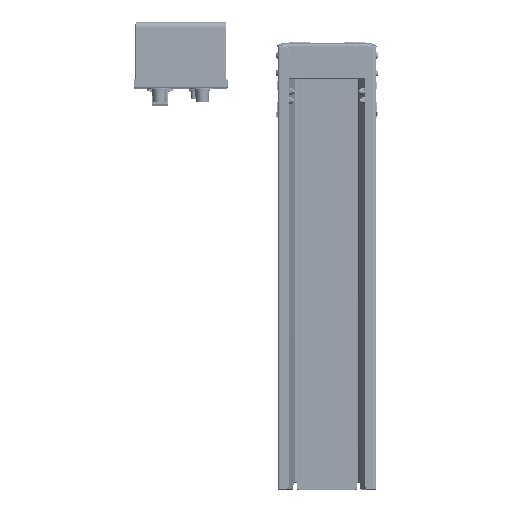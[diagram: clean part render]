
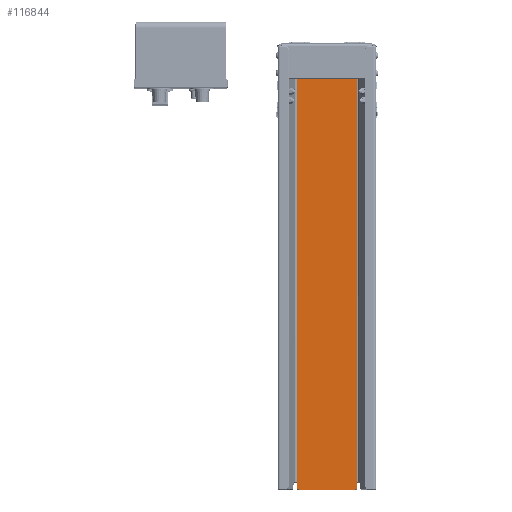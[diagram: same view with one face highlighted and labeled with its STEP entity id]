
A CAD part, top view. The second image highlights one B-rep face of the part: STEP entity #116844.
In plain terms, the highlighted planar face has unit normal (0, 0, 1).
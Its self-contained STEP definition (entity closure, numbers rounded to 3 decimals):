
#673 = ORIENTED_EDGE ( 'NONE', *, *, #25202, .T. ) ;
#1169 = VECTOR ( 'NONE', #91320, 1000. ) ;
#2685 = CARTESIAN_POINT ( 'NONE',  ( 42.445, 295.75, 0. ) ) ;
#3524 = CARTESIAN_POINT ( 'NONE',  ( 40.145, 298.05, 0. ) ) ;
#6179 = ORIENTED_EDGE ( 'NONE', *, *, #135567, .T. ) ;
#6259 = CARTESIAN_POINT ( 'NONE',  ( 43.145, 288.05, 0. ) ) ;
#7930 = CARTESIAN_POINT ( 'NONE',  ( -42.445, 288.75, 0. ) ) ;
#8040 = CARTESIAN_POINT ( 'NONE',  ( 43.145, 298.75, 0. ) ) ;
#8458 = CARTESIAN_POINT ( 'NONE',  ( -40.145, 295.75, 0. ) ) ;
#9961 = AXIS2_PLACEMENT_3D ( 'NONE', #62939, #51380, #62186 ) ;
#10751 = DIRECTION ( 'NONE',  ( 1., 0., 0. ) ) ;
#11056 = VECTOR ( 'NONE', #37459, 1000. ) ;
#12411 = CARTESIAN_POINT ( 'NONE',  ( 43.145, -298.041, 0. ) ) ;
#15068 = CARTESIAN_POINT ( 'NONE',  ( 0., 298.05, 0. ) ) ;
#18631 = EDGE_CURVE ( 'NONE', #58991, #142978, #45030, .T. ) ;
#20020 = VERTEX_POINT ( 'NONE', #3524 ) ;
#23687 = CARTESIAN_POINT ( 'NONE',  ( 0., -298.05, 0. ) ) ;
#25202 = EDGE_CURVE ( 'NONE', #90045, #123799, #34608, .T. ) ;
#25866 = LINE ( 'NONE', #15068, #49844 ) ;
#25888 = LINE ( 'NONE', #99130, #11056 ) ;
#26203 = CARTESIAN_POINT ( 'NONE',  ( -43.145, -299.304, 0. ) ) ;
#28842 = CARTESIAN_POINT ( 'NONE',  ( 40.145, 295.75, 0. ) ) ;
#32550 = EDGE_CURVE ( 'NONE', #112395, #123799, #108701, .T. ) ;
#34527 = LINE ( 'NONE', #23687, #141699 ) ;
#34608 = LINE ( 'NONE', #92457, #55952 ) ;
#36129 = CARTESIAN_POINT ( 'NONE',  ( -43.145, 288.05, 0. ) ) ;
#36877 = VERTEX_POINT ( 'NONE', #110789 ) ;
#37459 = DIRECTION ( 'NONE',  ( 0., 1., 0. ) ) ;
#39439 = DIRECTION ( 'NONE',  ( -1., 0., 0. ) ) ;
#41827 = CARTESIAN_POINT ( 'NONE',  ( 43.158, -298.044, 0. ) ) ;
#43684 = CARTESIAN_POINT ( 'NONE',  ( -42.445, 288.05, 0. ) ) ;
#45030 = LINE ( 'NONE', #8040, #1169 ) ;
#46446 = EDGE_CURVE ( 'NONE', #51347, #52669, #25888, .T. ) ;
#48378 = ORIENTED_EDGE ( 'NONE', *, *, #83167, .T. ) ;
#48946 = ORIENTED_EDGE ( 'NONE', *, *, #130557, .T. ) ;
#49811 = EDGE_CURVE ( 'NONE', #87848, #106148, #92512, .T. ) ;
#49844 = VECTOR ( 'NONE', #50504, 1000. ) ;
#50504 = DIRECTION ( 'NONE',  ( -1., 0., 0. ) ) ;
#51347 = VERTEX_POINT ( 'NONE', #85327 ) ;
#51380 = DIRECTION ( 'NONE',  ( 0., 0., 1. ) ) ;
#51771 = EDGE_CURVE ( 'NONE', #52669, #20020, #129747, .T. ) ;
#52669 = VERTEX_POINT ( 'NONE', #2685 ) ;
#52738 = ORIENTED_EDGE ( 'NONE', *, *, #49811, .T. ) ;
#54891 = CARTESIAN_POINT ( 'NONE',  ( 43.171, -298.047, 0. ) ) ;
#55224 = ORIENTED_EDGE ( 'NONE', *, *, #32550, .F. ) ;
#55952 = VECTOR ( 'NONE', #114848, 1000. ) ;
#56373 = B_SPLINE_CURVE_WITH_KNOTS ( 'NONE', 3,
 ( #57164, #54891, #41827, #91139 ),
 .UNSPECIFIED., .F., .F.,
 ( 4, 4 ),
 ( 0., 1. ),
 .UNSPECIFIED. ) ;
#57164 = CARTESIAN_POINT ( 'NONE',  ( 43.183, -298.05, 0. ) ) ;
#58991 = VERTEX_POINT ( 'NONE', #6259 ) ;
#59885 = DIRECTION ( 'NONE',  ( 1., 0., 0. ) ) ;
#61015 = LINE ( 'NONE', #108846, #82402 ) ;
#62186 = DIRECTION ( 'NONE',  ( 1., 0., 0. ) ) ;
#62904 = EDGE_CURVE ( 'NONE', #112395, #36877, #65351, .T. ) ;
#62939 = CARTESIAN_POINT ( 'NONE',  ( 0., 0., 0. ) ) ;
#65351 = B_SPLINE_CURVE_WITH_KNOTS ( 'NONE', 3,
 ( #117794, #90297, #88786, #137342 ),
 .UNSPECIFIED., .F., .F.,
 ( 4, 4 ),
 ( 0., 1. ),
 .UNSPECIFIED. ) ;
#72792 = AXIS2_PLACEMENT_3D ( 'NONE', #8458, #82436, #10751 ) ;
#73126 = AXIS2_PLACEMENT_3D ( 'NONE', #28842, #135258, #144554 ) ;
#73851 = ORIENTED_EDGE ( 'NONE', *, *, #62904, .T. ) ;
#75286 = PLANE ( 'NONE',  #9961 ) ;
#77143 = ORIENTED_EDGE ( 'NONE', *, *, #142211, .T. ) ;
#82402 = VECTOR ( 'NONE', #39439, 1000. ) ;
#82436 = DIRECTION ( 'NONE',  ( 0., 0., 1. ) ) ;
#82468 = LINE ( 'NONE', #7930, #82528 ) ;
#82528 = VECTOR ( 'NONE', #90461, 1000. ) ;
#82817 = CARTESIAN_POINT ( 'NONE',  ( -40.145, 298.05, 0. ) ) ;
#83167 = EDGE_CURVE ( 'NONE', #58991, #51347, #61015, .T. ) ;
#85327 = CARTESIAN_POINT ( 'NONE',  ( 42.445, 288.05, 0. ) ) ;
#87848 = VERTEX_POINT ( 'NONE', #82817 ) ;
#87875 = EDGE_LOOP ( 'NONE', ( #77143, #673, #55224, #73851, #48946, #136931, #89504, #48378, #116127, #145723, #6179, #52738 ) ) ;
#88667 = CARTESIAN_POINT ( 'NONE',  ( -43.145, -298.041, 0. ) ) ;
#88786 = CARTESIAN_POINT ( 'NONE',  ( -43.171, -298.047, 0. ) ) ;
#89504 = ORIENTED_EDGE ( 'NONE', *, *, #18631, .F. ) ;
#90045 = VERTEX_POINT ( 'NONE', #43684 ) ;
#90297 = CARTESIAN_POINT ( 'NONE',  ( -43.158, -298.044, 0. ) ) ;
#90461 = DIRECTION ( 'NONE',  ( 0., -1., 0. ) ) ;
#91139 = CARTESIAN_POINT ( 'NONE',  ( 43.145, -298.041, 0. ) ) ;
#91320 = DIRECTION ( 'NONE',  ( 0., -1., 0. ) ) ;
#92457 = CARTESIAN_POINT ( 'NONE',  ( -45.077, 288.05, 0. ) ) ;
#92512 = CIRCLE ( 'NONE', #72792, 2.3 ) ;
#99130 = CARTESIAN_POINT ( 'NONE',  ( 42.445, 295.75, 0. ) ) ;
#101637 = CARTESIAN_POINT ( 'NONE',  ( -42.445, 295.75, 0. ) ) ;
#106148 = VERTEX_POINT ( 'NONE', #101637 ) ;
#108701 = LINE ( 'NONE', #26203, #128533 ) ;
#108846 = CARTESIAN_POINT ( 'NONE',  ( 43.145, 288.05, 0. ) ) ;
#110789 = CARTESIAN_POINT ( 'NONE',  ( -43.183, -298.05, 0. ) ) ;
#112395 = VERTEX_POINT ( 'NONE', #88667 ) ;
#114848 = DIRECTION ( 'NONE',  ( -1., 0., 0. ) ) ;
#116127 = ORIENTED_EDGE ( 'NONE', *, *, #46446, .T. ) ;
#116736 = CARTESIAN_POINT ( 'NONE',  ( 43.183, -298.05, 0. ) ) ;
#116844 = ADVANCED_FACE ( 'NONE', ( #132397 ), #75286, .T. ) ;
#117263 = EDGE_CURVE ( 'NONE', #143759, #142978, #56373, .T. ) ;
#117794 = CARTESIAN_POINT ( 'NONE',  ( -43.145, -298.041, 0. ) ) ;
#123799 = VERTEX_POINT ( 'NONE', #36129 ) ;
#128533 = VECTOR ( 'NONE', #134888, 1000. ) ;
#129747 = CIRCLE ( 'NONE', #73126, 2.3 ) ;
#130557 = EDGE_CURVE ( 'NONE', #36877, #143759, #34527, .T. ) ;
#132397 = FACE_OUTER_BOUND ( 'NONE', #87875, .T. ) ;
#134888 = DIRECTION ( 'NONE',  ( 0., 1., 0. ) ) ;
#135258 = DIRECTION ( 'NONE',  ( 0., 0., 1. ) ) ;
#135567 = EDGE_CURVE ( 'NONE', #20020, #87848, #25866, .T. ) ;
#136931 = ORIENTED_EDGE ( 'NONE', *, *, #117263, .T. ) ;
#137342 = CARTESIAN_POINT ( 'NONE',  ( -43.183, -298.05, 0. ) ) ;
#141699 = VECTOR ( 'NONE', #59885, 1000. ) ;
#142211 = EDGE_CURVE ( 'NONE', #106148, #90045, #82468, .T. ) ;
#142978 = VERTEX_POINT ( 'NONE', #12411 ) ;
#143759 = VERTEX_POINT ( 'NONE', #116736 ) ;
#144554 = DIRECTION ( 'NONE',  ( 1., 0., 0. ) ) ;
#145723 = ORIENTED_EDGE ( 'NONE', *, *, #51771, .T. ) ;
